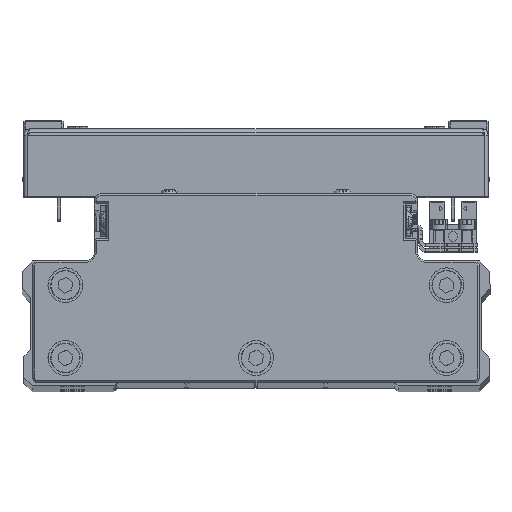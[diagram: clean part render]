
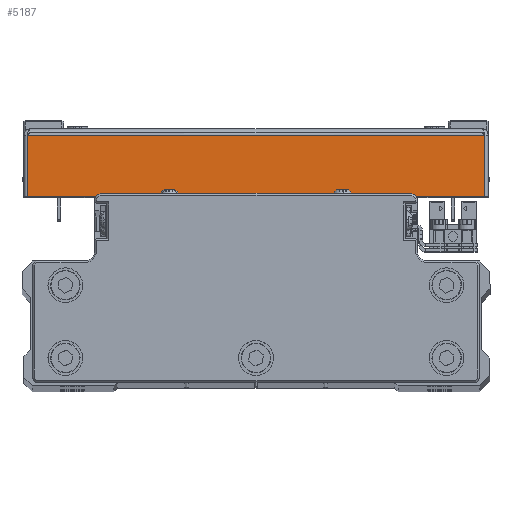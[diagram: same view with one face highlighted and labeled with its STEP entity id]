
A CAD part, top view. The second image highlights one B-rep face of the part: STEP entity #5187.
In plain terms, the highlighted planar face has unit normal (0, 0, 1) as drawn and (1, 0, 0) by its records, which use the part's own axes.
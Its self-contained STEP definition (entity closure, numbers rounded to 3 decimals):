
#873 = VECTOR ( 'NONE', #10529, 1000. ) ;
#1098 = LINE ( 'NONE', #14918, #14286 ) ;
#1479 = CARTESIAN_POINT ( 'NONE',  ( 100., 0., 0. ) ) ;
#2929 = VERTEX_POINT ( 'NONE', #34421 ) ;
#4338 = DIRECTION ( 'NONE',  ( 0., 1., 0. ) ) ;
#5177 = CARTESIAN_POINT ( 'NONE',  ( 100., 1., 65.929 ) ) ;
#5187 = ADVANCED_FACE ( 'NONE', ( #18713 ), #32550, .F. ) ;
#5804 = VERTEX_POINT ( 'NONE', #5177 ) ;
#6696 = EDGE_LOOP ( 'NONE', ( #36386, #36308, #36983, #35211 ) ) ;
#9151 = VERTEX_POINT ( 'NONE', #30373 ) ;
#10403 = CARTESIAN_POINT ( 'NONE',  ( 100., 1., 67. ) ) ;
#10529 = DIRECTION ( 'NONE',  ( 0., 0., 1. ) ) ;
#11839 = VECTOR ( 'NONE', #24239, 1000. ) ;
#14286 = VECTOR ( 'NONE', #28749, 1000. ) ;
#14918 = CARTESIAN_POINT ( 'NONE',  ( 100., 0., -65.929 ) ) ;
#15242 = EDGE_CURVE ( 'NONE', #9151, #5804, #41456, .T. ) ;
#15306 = DIRECTION ( 'NONE',  ( -1., 0., 0. ) ) ;
#18713 = FACE_OUTER_BOUND ( 'NONE', #6696, .T. ) ;
#19980 = AXIS2_PLACEMENT_3D ( 'NONE', #1479, #15306, #29150 ) ;
#21565 = LINE ( 'NONE', #35392, #42066 ) ;
#22140 = EDGE_CURVE ( 'NONE', #2929, #40889, #27763, .T. ) ;
#24239 = DIRECTION ( 'NONE',  ( 0., 0., 1. ) ) ;
#27763 = LINE ( 'NONE', #41590, #873 ) ;
#28749 = DIRECTION ( 'NONE',  ( 0., 1., 0. ) ) ;
#29150 = DIRECTION ( 'NONE',  ( 0., -1., 0. ) ) ;
#30360 = EDGE_CURVE ( 'NONE', #5804, #40889, #21565, .T. ) ;
#30373 = CARTESIAN_POINT ( 'NONE',  ( 100., 1., -65.929 ) ) ;
#32550 = PLANE ( 'NONE',  #19980 ) ;
#33910 = EDGE_CURVE ( 'NONE', #9151, #2929, #1098, .T. ) ;
#34421 = CARTESIAN_POINT ( 'NONE',  ( 100., 18.5, -65.929 ) ) ;
#35211 = ORIENTED_EDGE ( 'NONE', *, *, #30360, .F. ) ;
#35392 = CARTESIAN_POINT ( 'NONE',  ( 100., 0., 65.929 ) ) ;
#36235 = CARTESIAN_POINT ( 'NONE',  ( 100., 18.5, 65.929 ) ) ;
#36308 = ORIENTED_EDGE ( 'NONE', *, *, #33910, .T. ) ;
#36386 = ORIENTED_EDGE ( 'NONE', *, *, #15242, .F. ) ;
#36983 = ORIENTED_EDGE ( 'NONE', *, *, #22140, .T. ) ;
#40889 = VERTEX_POINT ( 'NONE', #36235 ) ;
#41456 = LINE ( 'NONE', #10403, #11839 ) ;
#41590 = CARTESIAN_POINT ( 'NONE',  ( 100., 18.5, 0. ) ) ;
#42066 = VECTOR ( 'NONE', #4338, 1000. ) ;
